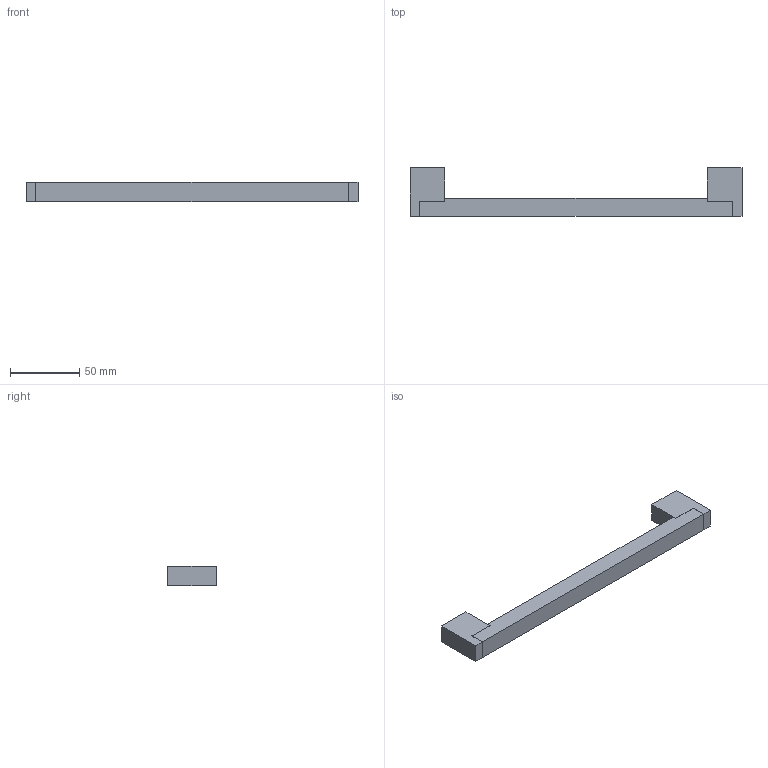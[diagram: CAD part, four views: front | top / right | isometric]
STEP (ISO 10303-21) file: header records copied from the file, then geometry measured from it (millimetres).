
FILE_DESCRIPTION( ( '' ), '1' );
FILE_NAME( 'D:/1.AUTOCAD EXPORT/Group 10/sheet_10_1/9071742.stp', '2013-10-16T10:37:03', ( '' ), ( '' ), ' ', ' ', ' ' );
FILE_SCHEMA( ( 'automotive_design' ) );
Length unit declared in the file: millimetre
Products named in the file (1): 1
Bounding box: 240 x 35 x 14 mm (x, y, z)
Volume: 58872.9 mm3; surface area: 17017.4 mm2
Topology: 1 solids, 1 shells, 44 faces, 120 edges, 80 vertices
Faces by surface type: plane 40, cylinder 4
Entity records: 2748 total; most frequent: STYLED_ITEM 245, PRESENTATION_STYLE_ASSIGNMENT 245, CARTESIAN_POINT 245, COLOUR_RGB 245, ORIENTED_EDGE 240, DIRECTION 218, EDGE_CURVE 120, CURVE_STYLE 120
